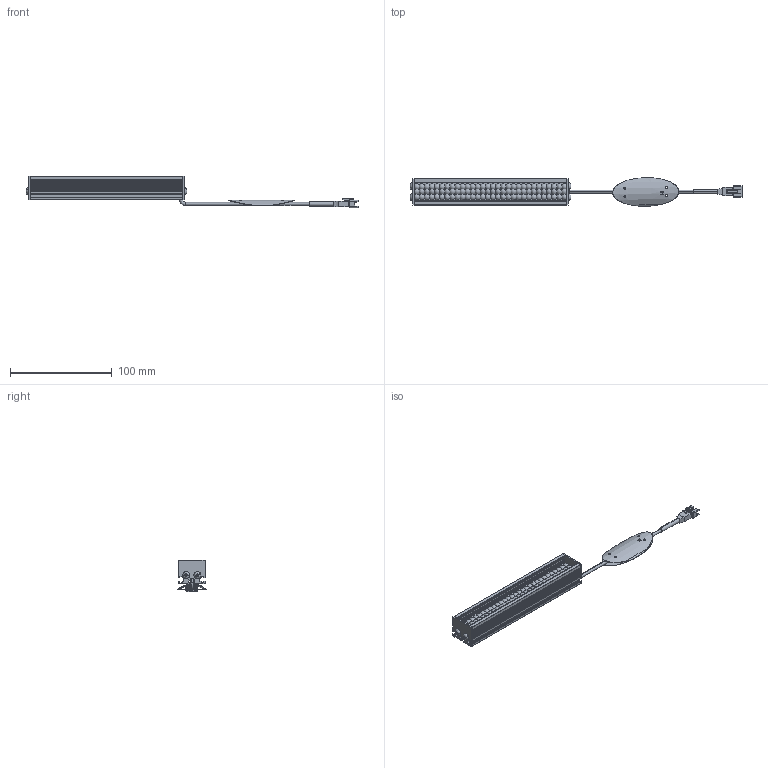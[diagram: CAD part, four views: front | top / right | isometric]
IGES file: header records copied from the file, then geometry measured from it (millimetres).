
Start section: 3D InterOp IGES (v. 2019 1.0.2), Spatial Corp. Copyright (c) 1999-2017.
Global section: file name: VBA-15015_DRAWING_3D.iges; native system: Spatial Corp.; preprocessor: 3D InterOp ACIS/IGES; author: Noname; organization: Noname; date: 20230914.095609; units: millimetre
Bounding box: 326 x 28 x 30.5 mm (x, y, z)
Surface area: 54476.8 mm2 (no closed solid volume)
Topology: 0 solids, 0 shells, 1028 faces, 5902 edges, 5902 vertices
Faces by surface type: extrusion 574, revolution 448, bspline 6
